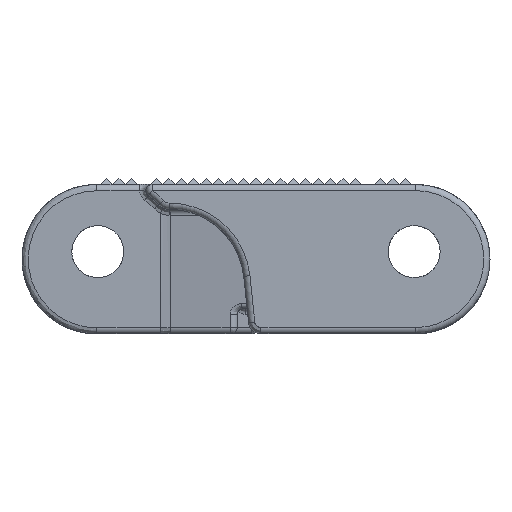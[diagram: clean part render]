
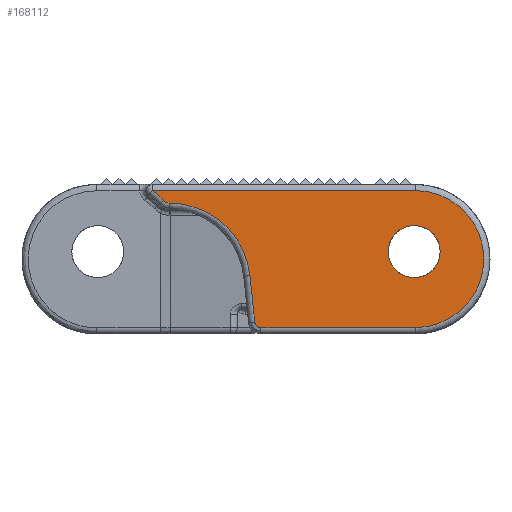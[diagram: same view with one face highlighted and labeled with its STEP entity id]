
A CAD part, left-side view. The second image highlights one B-rep face of the part: STEP entity #168112.
In plain terms, the highlighted planar face has unit normal (-1, 0, 0).
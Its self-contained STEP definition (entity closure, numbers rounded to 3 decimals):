
#37647=CARTESIAN_POINT('',(-298.25,-25.575,12.));
#37648=DIRECTION('',(-1.,0.,0.));
#37649=DIRECTION('',(0.,0.,-1.));
#37650=AXIS2_PLACEMENT_3D('',#37647,#37648,#37649);
#37652=DIRECTION('',(0.,-1.,0.));
#37653=VECTOR('',#37652,24.774);
#37654=CARTESIAN_POINT('',(-298.25,-0.801,1.));
#37655=LINE('',#37654,#37653);
#37656=CARTESIAN_POINT('',(-298.25,-0.801,2.));
#37657=DIRECTION('',(-1.,0.,0.));
#37658=DIRECTION('',(0.,0.995,-0.105));
#37659=AXIS2_PLACEMENT_3D('',#37656,#37657,#37658);
#37661=DIRECTION('',(0.,-0.105,-0.995));
#37662=VECTOR('',#37661,7.476);
#37663=CARTESIAN_POINT('',(-298.25,0.975,9.33));
#37664=LINE('',#37663,#37662);
#37665=CARTESIAN_POINT('',(-298.25,13.935,7.968));
#37666=DIRECTION('',(1.,0.,0.));
#37667=DIRECTION('',(0.,0.,1.));
#37668=AXIS2_PLACEMENT_3D('',#37665,#37666,#37667);
#37670=CARTESIAN_POINT('',(-298.25,13.935,22.268));
#37671=DIRECTION('',(-1.,0.,0.));
#37672=DIRECTION('',(0.,0.73,-0.683));
#37673=AXIS2_PLACEMENT_3D('',#37670,#37671,#37672);
#37675=CARTESIAN_POINT('',(-298.25,23.621,13.2));
#37676=DIRECTION('',(1.,0.,0.));
#37677=DIRECTION('',(0.,-0.577,0.817));
#37678=AXIS2_PLACEMENT_3D('',#37675,#37676,#37677);
#37680=DIRECTION('',(0.,1.,0.));
#37681=VECTOR('',#37680,42.271);
#37682=CARTESIAN_POINT('',(-298.25,-25.575,23.));
#37683=LINE('',#37682,#37681);
#37684=CARTESIAN_POINT('',(-298.25,-25.4,13.2));
#37685=DIRECTION('',(1.,0.,0.));
#37686=DIRECTION('',(0.,1.,0.));
#37687=AXIS2_PLACEMENT_3D('',#37684,#37685,#37686);
#37689=CARTESIAN_POINT('',(-298.25,-25.4,13.2));
#37690=DIRECTION('',(1.,0.,0.));
#37691=DIRECTION('',(0.,-1.,0.));
#37692=AXIS2_PLACEMENT_3D('',#37689,#37690,#37691);
#98031=CARTESIAN_POINT('',(-298.25,-21.225,13.2));
#98033=VERTEX_POINT('',#98031);
#98063=CARTESIAN_POINT('',(-298.25,-29.575,13.2));
#98065=VERTEX_POINT('',#98063);
#104058=CARTESIAN_POINT('',(-298.25,-25.575,1.));
#104059=CARTESIAN_POINT('',(-298.25,-25.575,23.));
#104060=VERTEX_POINT('',#104058);
#104061=VERTEX_POINT('',#104059);
#104066=CARTESIAN_POINT('',(-298.25,16.696,23.));
#104067=VERTEX_POINT('',#104066);
#104072=CARTESIAN_POINT('',(-298.25,14.861,21.401));
#104073=VERTEX_POINT('',#104072);
#104076=CARTESIAN_POINT('',(-298.25,13.935,21.));
#104077=VERTEX_POINT('',#104076);
#104080=CARTESIAN_POINT('',(-298.25,0.975,9.33));
#104081=VERTEX_POINT('',#104080);
#104084=CARTESIAN_POINT('',(-298.25,0.194,1.895));
#104085=VERTEX_POINT('',#104084);
#104088=CARTESIAN_POINT('',(-298.25,-0.801,1.));
#104089=VERTEX_POINT('',#104088);
#168086=CARTESIAN_POINT('',(-298.25,0.,-2.502));
#168087=DIRECTION('',(-1.,0.,0.));
#168088=DIRECTION('',(0.,1.,0.));
#168089=AXIS2_PLACEMENT_3D('',#168086,#168087,#168088);
#168090=PLANE('',#168089);
#168092=ORIENTED_EDGE('',*,*,#168091,.F.);
#168094=ORIENTED_EDGE('',*,*,#168093,.F.);
#168096=ORIENTED_EDGE('',*,*,#168095,.F.);
#168098=ORIENTED_EDGE('',*,*,#168097,.F.);
#168100=ORIENTED_EDGE('',*,*,#168099,.F.);
#168102=ORIENTED_EDGE('',*,*,#168101,.F.);
#168104=ORIENTED_EDGE('',*,*,#168103,.F.);
#168105=ORIENTED_EDGE('',*,*,#168077,.F.);
#168106=EDGE_LOOP('',(#168092,#168094,#168096,#168098,#168100,#168102,#168104,
#168105));
#168107=FACE_OUTER_BOUND('',#168106,.F.);
#168108=ORIENTED_EDGE('',*,*,#149157,.F.);
#168109=ORIENTED_EDGE('',*,*,#153214,.F.);
#168110=EDGE_LOOP('',(#168108,#168109));
#168111=FACE_BOUND('',#168110,.F.);
#168112=ADVANCED_FACE('',(#168107,#168111),#168090,.T.);
#37651=CIRCLE('',#37650,11.);
#37660=CIRCLE('',#37659,1.);
#37669=CIRCLE('',#37668,13.032);
#37674=CIRCLE('',#37673,1.268);
#37679=CIRCLE('',#37678,12.);
#37688=CIRCLE('',#37687,4.175);
#37693=CIRCLE('',#37692,4.175);
#149157=EDGE_CURVE('',#98033,#98065,#37688,.T.);
#153214=EDGE_CURVE('',#98065,#98033,#37693,.T.);
#168077=EDGE_CURVE('',#104061,#104067,#37683,.T.);
#168091=EDGE_CURVE('',#104060,#104061,#37651,.T.);
#168093=EDGE_CURVE('',#104089,#104060,#37655,.T.);
#168095=EDGE_CURVE('',#104085,#104089,#37660,.T.);
#168097=EDGE_CURVE('',#104081,#104085,#37664,.T.);
#168099=EDGE_CURVE('',#104077,#104081,#37669,.T.);
#168101=EDGE_CURVE('',#104073,#104077,#37674,.T.);
#168103=EDGE_CURVE('',#104067,#104073,#37679,.T.);
